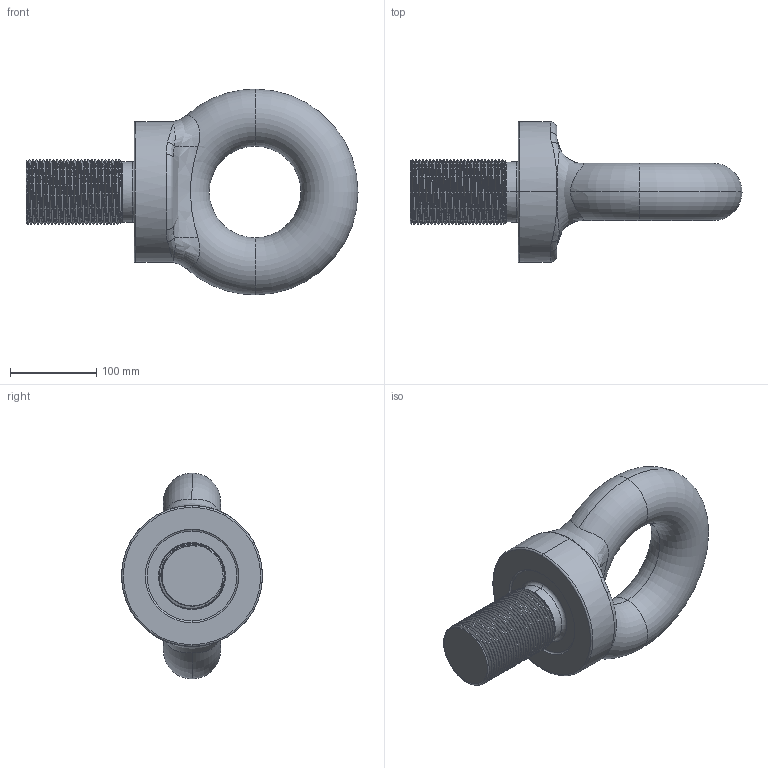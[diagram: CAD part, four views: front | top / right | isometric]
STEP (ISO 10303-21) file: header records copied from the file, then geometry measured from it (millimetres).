
FILE_DESCRIPTION (( 'STEP AP203' ), '1' );
FILE_NAME ('EBMF76.STEP', '2014-02-28T03:35:34', ( '' ), ( '' ), 'SwSTEP 2.0', 'SolidWorks 2012', '' );
FILE_SCHEMA (( 'CONFIG_CONTROL_DESIGN' ));
Length unit declared in the file: millimetre
Products named in the file (1): EBMF76
Bounding box: 384 x 163 x 238 mm (x, y, z)
Volume: 3253036.7 mm3; surface area: 208476.1 mm2
Topology: 1 solids, 1 shells, 102 faces, 283 edges, 175 vertices
Faces by surface type: cylinder 58, bspline 20, torus 12, cone 7, plane 5
Entity records: 21284 total; most frequent: CARTESIAN_POINT 19122, ORIENTED_EDGE 550, DIRECTION 330, EDGE_CURVE 275, VERTEX_POINT 175, AXIS2_PLACEMENT_3D 134, EDGE_LOOP 104, FACE_OUTER_BOUND 102
